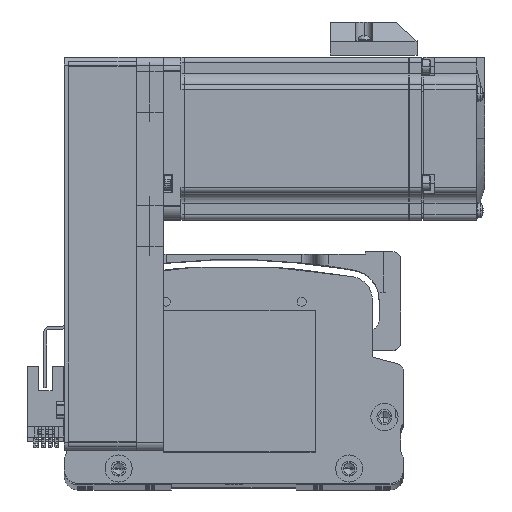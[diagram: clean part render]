
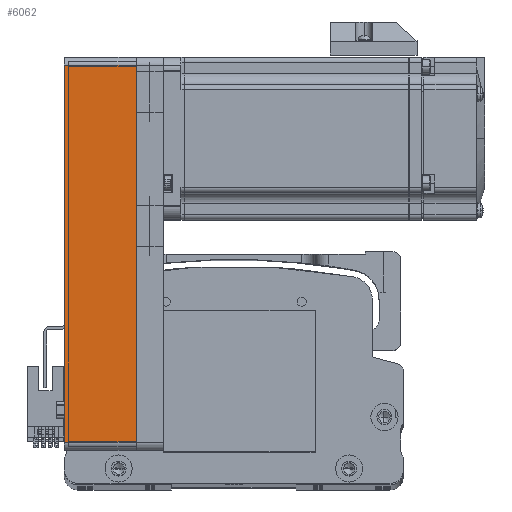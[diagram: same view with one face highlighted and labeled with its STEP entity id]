
A CAD part, top view. The second image highlights one B-rep face of the part: STEP entity #6062.
In plain terms, the highlighted planar face has unit normal (0, 0, 1) as drawn and (0, -1, 0) by its records, which use the part's own axes.
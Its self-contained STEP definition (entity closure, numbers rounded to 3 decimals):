
#3388 = VECTOR ( 'NONE', #60341, 1000. ) ;
#5449 = LINE ( 'NONE', #21238, #3388 ) ;
#5619 = DIRECTION ( 'NONE',  ( 1., 0., 0. ) ) ;
#6062 = ADVANCED_FACE ( 'NONE', ( #35330 ), #50639, .F. ) ;
#6485 = ORIENTED_EDGE ( 'NONE', *, *, #7799, .T. ) ;
#7799 = EDGE_CURVE ( 'NONE', #25425, #78312, #16892, .T. ) ;
#8168 = AXIS2_PLACEMENT_3D ( 'NONE', #76876, #37769, #83461 ) ;
#8372 = ORIENTED_EDGE ( 'NONE', *, *, #67788, .T. ) ;
#11798 = CARTESIAN_POINT ( 'NONE',  ( 72.5, -30., 0. ) ) ;
#16892 = LINE ( 'NONE', #11798, #30161 ) ;
#20980 = VERTEX_POINT ( 'NONE', #29629 ) ;
#21238 = CARTESIAN_POINT ( 'NONE',  ( 69.5, -30., 26.5 ) ) ;
#23440 = EDGE_CURVE ( 'NONE', #62199, #20980, #56296, .T. ) ;
#25425 = VERTEX_POINT ( 'NONE', #78384 ) ;
#27502 = ORIENTED_EDGE ( 'NONE', *, *, #43948, .T. ) ;
#29629 = CARTESIAN_POINT ( 'NONE',  ( 69.5, -30., 26.5 ) ) ;
#30161 = VECTOR ( 'NONE', #50963, 1000. ) ;
#33238 = CARTESIAN_POINT ( 'NONE',  ( 69.5, -30., 0. ) ) ;
#35330 = FACE_OUTER_BOUND ( 'NONE', #59147, .T. ) ;
#37769 = DIRECTION ( 'NONE',  ( 0., 1., 0. ) ) ;
#40773 = CARTESIAN_POINT ( 'NONE',  ( -69.5, -30., 26.5 ) ) ;
#43948 = EDGE_CURVE ( 'NONE', #78312, #20980, #5449, .T. ) ;
#50639 = PLANE ( 'NONE',  #8168 ) ;
#50963 = DIRECTION ( 'NONE',  ( 1., 0., 0. ) ) ;
#54968 = LINE ( 'NONE', #40773, #70292 ) ;
#56296 = LINE ( 'NONE', #83882, #71641 ) ;
#56698 = CARTESIAN_POINT ( 'NONE',  ( -69.5, -30., 26.5 ) ) ;
#59147 = EDGE_LOOP ( 'NONE', ( #6485, #27502, #76090, #8372 ) ) ;
#60341 = DIRECTION ( 'NONE',  ( 0., 0., 1. ) ) ;
#60404 = DIRECTION ( 'NONE',  ( 0., 0., -1. ) ) ;
#62199 = VERTEX_POINT ( 'NONE', #56698 ) ;
#67788 = EDGE_CURVE ( 'NONE', #62199, #25425, #54968, .T. ) ;
#70292 = VECTOR ( 'NONE', #60404, 1000. ) ;
#71641 = VECTOR ( 'NONE', #5619, 1000. ) ;
#76090 = ORIENTED_EDGE ( 'NONE', *, *, #23440, .F. ) ;
#76876 = CARTESIAN_POINT ( 'NONE',  ( 72.5, -30., 26.5 ) ) ;
#78312 = VERTEX_POINT ( 'NONE', #33238 ) ;
#78384 = CARTESIAN_POINT ( 'NONE',  ( -69.5, -30., 0. ) ) ;
#83461 = DIRECTION ( 'NONE',  ( -1., 0., 0. ) ) ;
#83882 = CARTESIAN_POINT ( 'NONE',  ( 72.5, -30., 26.5 ) ) ;
